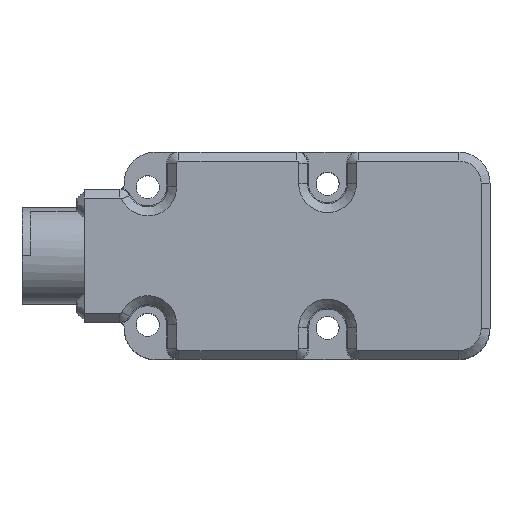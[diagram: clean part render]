
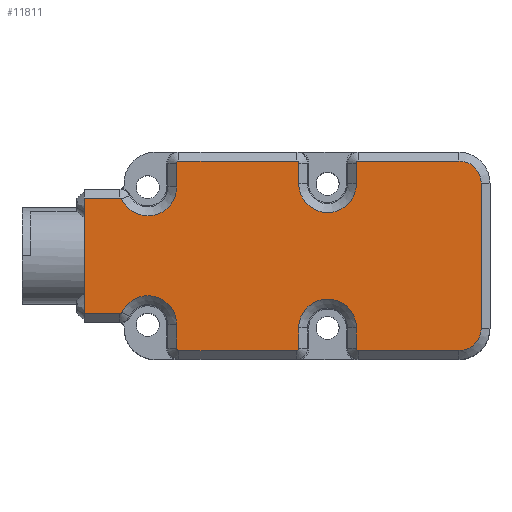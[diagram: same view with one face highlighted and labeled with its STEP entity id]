
A CAD part, top view. The second image highlights one B-rep face of the part: STEP entity #11811.
In plain terms, the highlighted planar face has unit normal (0, 0, 1).
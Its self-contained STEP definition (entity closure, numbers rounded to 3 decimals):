
#907=DIRECTION('',(0.,1.,0.));
#908=VECTOR('',#907,32.7);
#909=CARTESIAN_POINT('',(53.6,-16.35,56.007));
#910=LINE('',#909,#908);
#1017=DIRECTION('',(1.,0.,0.));
#1018=VECTOR('',#1017,8.025);
#1019=CARTESIAN_POINT('',(-35.85,13.,56.007));
#1020=LINE('',#1019,#1018);
#1021=CARTESIAN_POINT('',(-27.825,12.5,56.007));
#1022=DIRECTION('',(0.,0.,-1.));
#1023=DIRECTION('',(0.,1.,0.));
#1024=AXIS2_PLACEMENT_3D('',#1021,#1022,#1023);
#1026=CARTESIAN_POINT('',(-21.5,15.5,56.007));
#1027=DIRECTION('',(0.,0.,1.));
#1028=DIRECTION('',(-0.904,-0.429,0.));
#1029=AXIS2_PLACEMENT_3D('',#1026,#1027,#1028);
#1031=CARTESIAN_POINT('',(-14.5,20.85,56.007));
#1032=DIRECTION('',(0.,0.,-1.));
#1033=DIRECTION('',(-1.,0.,0.));
#1034=AXIS2_PLACEMENT_3D('',#1031,#1032,#1033);
#1036=CARTESIAN_POINT('',(12.,20.85,56.007));
#1037=DIRECTION('',(0.,0.,-1.));
#1038=DIRECTION('',(0.,1.,0.));
#1039=AXIS2_PLACEMENT_3D('',#1036,#1037,#1038);
#1041=CARTESIAN_POINT('',(19.,16.25,56.007));
#1042=DIRECTION('',(0.,0.,1.));
#1043=DIRECTION('',(-1.,0.,0.));
#1044=AXIS2_PLACEMENT_3D('',#1041,#1042,#1043);
#1046=CARTESIAN_POINT('',(26.,20.85,56.007));
#1047=DIRECTION('',(0.,0.,-1.));
#1048=DIRECTION('',(-1.,0.,0.));
#1049=AXIS2_PLACEMENT_3D('',#1046,#1047,#1048);
#1051=CARTESIAN_POINT('',(48.6,16.35,56.007));
#1052=DIRECTION('',(0.,0.,-1.));
#1053=DIRECTION('',(0.,1.,0.));
#1054=AXIS2_PLACEMENT_3D('',#1051,#1052,#1053);
#1056=CARTESIAN_POINT('',(48.6,-16.35,56.007));
#1057=DIRECTION('',(0.,0.,-1.));
#1058=DIRECTION('',(1.,0.,0.));
#1059=AXIS2_PLACEMENT_3D('',#1056,#1057,#1058);
#1061=CARTESIAN_POINT('',(26.,-20.85,56.007));
#1062=DIRECTION('',(0.,0.,-1.));
#1063=DIRECTION('',(0.,-1.,0.));
#1064=AXIS2_PLACEMENT_3D('',#1061,#1062,#1063);
#1066=CARTESIAN_POINT('',(19.,-16.25,56.007));
#1067=DIRECTION('',(0.,0.,1.));
#1068=DIRECTION('',(1.,0.,0.));
#1069=AXIS2_PLACEMENT_3D('',#1066,#1067,#1068);
#1071=CARTESIAN_POINT('',(12.,-20.85,56.007));
#1072=DIRECTION('',(0.,0.,-1.));
#1073=DIRECTION('',(1.,0.,0.));
#1074=AXIS2_PLACEMENT_3D('',#1071,#1072,#1073);
#1076=CARTESIAN_POINT('',(-14.5,-20.85,56.007));
#1077=DIRECTION('',(0.,0.,-1.));
#1078=DIRECTION('',(0.,-1.,0.));
#1079=AXIS2_PLACEMENT_3D('',#1076,#1077,#1078);
#1081=CARTESIAN_POINT('',(-21.5,-15.5,56.007));
#1082=DIRECTION('',(0.,0.,1.));
#1083=DIRECTION('',(1.,0.,0.));
#1084=AXIS2_PLACEMENT_3D('',#1081,#1082,#1083);
#1086=CARTESIAN_POINT('',(-27.825,-12.5,56.007));
#1087=DIRECTION('',(0.,0.,-1.));
#1088=DIRECTION('',(0.904,-0.429,0.));
#1089=AXIS2_PLACEMENT_3D('',#1086,#1087,#1088);
#1091=DIRECTION('',(1.,0.,0.));
#1092=VECTOR('',#1091,8.025);
#1093=CARTESIAN_POINT('',(-35.85,-13.,56.007));
#1094=LINE('',#1093,#1092);
#1135=DIRECTION('',(0.,-1.,0.));
#1136=VECTOR('',#1135,26.);
#1137=CARTESIAN_POINT('',(-35.85,13.,56.007));
#1138=LINE('',#1137,#1136);
#3046=DIRECTION('',(-1.,0.,0.));
#3047=VECTOR('',#3046,22.6);
#3048=CARTESIAN_POINT('',(48.6,21.35,56.007));
#3049=LINE('',#3048,#3047);
#3075=DIRECTION('',(0.,-1.,0.));
#3076=VECTOR('',#3075,4.6);
#3077=CARTESIAN_POINT('',(25.5,20.85,56.007));
#3078=LINE('',#3077,#3076);
#3104=DIRECTION('',(0.,1.,0.));
#3105=VECTOR('',#3104,4.6);
#3106=CARTESIAN_POINT('',(12.5,16.25,56.007));
#3107=LINE('',#3106,#3105);
#3723=DIRECTION('',(0.,-1.,0.));
#3724=VECTOR('',#3723,5.35);
#3725=CARTESIAN_POINT('',(-15.,-15.5,56.007));
#3726=LINE('',#3725,#3724);
#3926=DIRECTION('',(1.,0.,0.));
#3927=VECTOR('',#3926,26.5);
#3928=CARTESIAN_POINT('',(-14.5,-21.35,56.007));
#3929=LINE('',#3928,#3927);
#3955=DIRECTION('',(0.,1.,0.));
#3956=VECTOR('',#3955,4.6);
#3957=CARTESIAN_POINT('',(12.5,-20.85,56.007));
#3958=LINE('',#3957,#3956);
#3984=DIRECTION('',(0.,-1.,0.));
#3985=VECTOR('',#3984,4.6);
#3986=CARTESIAN_POINT('',(25.5,-16.25,56.007));
#3987=LINE('',#3986,#3985);
#4108=DIRECTION('',(1.,0.,0.));
#4109=VECTOR('',#4108,22.6);
#4110=CARTESIAN_POINT('',(26.,-21.35,56.007));
#4111=LINE('',#4110,#4109);
#5461=DIRECTION('',(-1.,0.,0.));
#5462=VECTOR('',#5461,26.5);
#5463=CARTESIAN_POINT('',(12.,21.35,56.007));
#5464=LINE('',#5463,#5462);
#5490=DIRECTION('',(0.,-1.,0.));
#5491=VECTOR('',#5490,5.35);
#5492=CARTESIAN_POINT('',(-15.,20.85,56.007));
#5493=LINE('',#5492,#5491);
#9327=CARTESIAN_POINT('',(53.6,-16.35,56.007));
#9328=VERTEX_POINT('',#9327);
#9329=CARTESIAN_POINT('',(53.6,16.35,56.007));
#9330=VERTEX_POINT('',#9329);
#9333=CARTESIAN_POINT('',(48.6,-21.35,56.007));
#9334=VERTEX_POINT('',#9333);
#9645=CARTESIAN_POINT('',(25.5,20.85,56.007));
#9646=VERTEX_POINT('',#9645);
#9647=CARTESIAN_POINT('',(25.5,16.25,56.007));
#9648=VERTEX_POINT('',#9647);
#9651=CARTESIAN_POINT('',(26.,21.35,56.007));
#9652=VERTEX_POINT('',#9651);
#9664=CARTESIAN_POINT('',(48.6,21.35,56.007));
#9665=VERTEX_POINT('',#9664);
#9666=CARTESIAN_POINT('',(-35.85,-13.,56.007));
#9667=CARTESIAN_POINT('',(-27.825,-13.,56.007));
#9668=VERTEX_POINT('',#9666);
#9669=VERTEX_POINT('',#9667);
#9670=CARTESIAN_POINT('',(-35.85,13.,56.007));
#9671=VERTEX_POINT('',#9670);
#9672=CARTESIAN_POINT('',(-27.825,13.,56.007));
#9673=VERTEX_POINT('',#9672);
#9674=CARTESIAN_POINT('',(-27.373,12.714,56.007));
#9675=VERTEX_POINT('',#9674);
#9676=CARTESIAN_POINT('',(-15.,15.5,56.007));
#9677=VERTEX_POINT('',#9676);
#9678=CARTESIAN_POINT('',(-15.,20.85,56.007));
#9679=VERTEX_POINT('',#9678);
#9680=CARTESIAN_POINT('',(-14.5,21.35,56.007));
#9681=VERTEX_POINT('',#9680);
#9682=CARTESIAN_POINT('',(12.,21.35,56.007));
#9683=VERTEX_POINT('',#9682);
#9684=CARTESIAN_POINT('',(12.5,20.85,56.007));
#9685=VERTEX_POINT('',#9684);
#9686=CARTESIAN_POINT('',(12.5,16.25,56.007));
#9687=VERTEX_POINT('',#9686);
#9688=CARTESIAN_POINT('',(26.,-21.35,56.007));
#9689=VERTEX_POINT('',#9688);
#9690=CARTESIAN_POINT('',(25.5,-20.85,56.007));
#9691=VERTEX_POINT('',#9690);
#9692=CARTESIAN_POINT('',(25.5,-16.25,56.007));
#9693=VERTEX_POINT('',#9692);
#9694=CARTESIAN_POINT('',(12.5,-16.25,56.007));
#9695=VERTEX_POINT('',#9694);
#9696=CARTESIAN_POINT('',(12.5,-20.85,56.007));
#9697=VERTEX_POINT('',#9696);
#9698=CARTESIAN_POINT('',(12.,-21.35,56.007));
#9699=VERTEX_POINT('',#9698);
#9700=CARTESIAN_POINT('',(-14.5,-21.35,56.007));
#9701=VERTEX_POINT('',#9700);
#9702=CARTESIAN_POINT('',(-15.,-20.85,56.007));
#9703=VERTEX_POINT('',#9702);
#9704=CARTESIAN_POINT('',(-15.,-15.5,56.007));
#9705=VERTEX_POINT('',#9704);
#9706=CARTESIAN_POINT('',(-27.373,-12.714,
56.007));
#9707=VERTEX_POINT('',#9706);
#11751=CARTESIAN_POINT('',(0.,0.,56.007));
#11752=DIRECTION('',(0.,0.,1.));
#11753=DIRECTION('',(1.,0.,0.));
#11754=AXIS2_PLACEMENT_3D('',#11751,#11752,#11753);
#11755=PLANE('',#11754);
#11757=ORIENTED_EDGE('',*,*,#11756,.F.);
#11759=ORIENTED_EDGE('',*,*,#11758,.F.);
#11761=ORIENTED_EDGE('',*,*,#11760,.T.);
#11763=ORIENTED_EDGE('',*,*,#11762,.T.);
#11765=ORIENTED_EDGE('',*,*,#11764,.T.);
#11767=ORIENTED_EDGE('',*,*,#11766,.F.);
#11769=ORIENTED_EDGE('',*,*,#11768,.T.);
#11771=ORIENTED_EDGE('',*,*,#11770,.F.);
#11773=ORIENTED_EDGE('',*,*,#11772,.T.);
#11775=ORIENTED_EDGE('',*,*,#11774,.F.);
#11777=ORIENTED_EDGE('',*,*,#11776,.T.);
#11779=ORIENTED_EDGE('',*,*,#11778,.F.);
#11781=ORIENTED_EDGE('',*,*,#11780,.T.);
#11783=ORIENTED_EDGE('',*,*,#11782,.F.);
#11784=ORIENTED_EDGE('',*,*,#11744,.T.);
#11785=ORIENTED_EDGE('',*,*,#11647,.F.);
#11786=ORIENTED_EDGE('',*,*,#11663,.T.);
#11788=ORIENTED_EDGE('',*,*,#11787,.F.);
#11790=ORIENTED_EDGE('',*,*,#11789,.T.);
#11792=ORIENTED_EDGE('',*,*,#11791,.F.);
#11794=ORIENTED_EDGE('',*,*,#11793,.T.);
#11796=ORIENTED_EDGE('',*,*,#11795,.F.);
#11798=ORIENTED_EDGE('',*,*,#11797,.T.);
#11800=ORIENTED_EDGE('',*,*,#11799,.F.);
#11802=ORIENTED_EDGE('',*,*,#11801,.T.);
#11804=ORIENTED_EDGE('',*,*,#11803,.F.);
#11806=ORIENTED_EDGE('',*,*,#11805,.T.);
#11808=ORIENTED_EDGE('',*,*,#11807,.T.);
#11809=EDGE_LOOP('',(#11757,#11759,#11761,#11763,#11765,#11767,#11769,#11771,
#11773,#11775,#11777,#11779,#11781,#11783,#11784,#11785,#11786,#11788,#11790,
#11792,#11794,#11796,#11798,#11800,#11802,#11804,#11806,#11808));
#11810=FACE_OUTER_BOUND('',#11809,.F.);
#11811=ADVANCED_FACE('',(#11810),#11755,.T.);
#1025=CIRCLE('',#1024,0.5);
#1030=CIRCLE('',#1029,6.5);
#1035=CIRCLE('',#1034,0.5);
#1040=CIRCLE('',#1039,0.5);
#1045=CIRCLE('',#1044,6.5);
#1050=CIRCLE('',#1049,0.5);
#1055=CIRCLE('',#1054,5.);
#1060=CIRCLE('',#1059,5.);
#1065=CIRCLE('',#1064,0.5);
#1070=CIRCLE('',#1069,6.5);
#1075=CIRCLE('',#1074,0.5);
#1080=CIRCLE('',#1079,0.5);
#1085=CIRCLE('',#1084,6.5);
#1090=CIRCLE('',#1089,0.5);
#11647=EDGE_CURVE('',#9328,#9330,#910,.T.);
#11663=EDGE_CURVE('',#9328,#9334,#1060,.T.);
#11744=EDGE_CURVE('',#9665,#9330,#1055,.T.);
#11756=EDGE_CURVE('',#9668,#9669,#1094,.T.);
#11758=EDGE_CURVE('',#9671,#9668,#1138,.T.);
#11760=EDGE_CURVE('',#9671,#9673,#1020,.T.);
#11762=EDGE_CURVE('',#9673,#9675,#1025,.T.);
#11764=EDGE_CURVE('',#9675,#9677,#1030,.T.);
#11766=EDGE_CURVE('',#9679,#9677,#5493,.T.);
#11768=EDGE_CURVE('',#9679,#9681,#1035,.T.);
#11770=EDGE_CURVE('',#9683,#9681,#5464,.T.);
#11772=EDGE_CURVE('',#9683,#9685,#1040,.T.);
#11774=EDGE_CURVE('',#9687,#9685,#3107,.T.);
#11776=EDGE_CURVE('',#9687,#9648,#1045,.T.);
#11778=EDGE_CURVE('',#9646,#9648,#3078,.T.);
#11780=EDGE_CURVE('',#9646,#9652,#1050,.T.);
#11782=EDGE_CURVE('',#9665,#9652,#3049,.T.);
#11787=EDGE_CURVE('',#9689,#9334,#4111,.T.);
#11789=EDGE_CURVE('',#9689,#9691,#1065,.T.);
#11791=EDGE_CURVE('',#9693,#9691,#3987,.T.);
#11793=EDGE_CURVE('',#9693,#9695,#1070,.T.);
#11795=EDGE_CURVE('',#9697,#9695,#3958,.T.);
#11797=EDGE_CURVE('',#9697,#9699,#1075,.T.);
#11799=EDGE_CURVE('',#9701,#9699,#3929,.T.);
#11801=EDGE_CURVE('',#9701,#9703,#1080,.T.);
#11803=EDGE_CURVE('',#9705,#9703,#3726,.T.);
#11805=EDGE_CURVE('',#9705,#9707,#1085,.T.);
#11807=EDGE_CURVE('',#9707,#9669,#1090,.T.);
